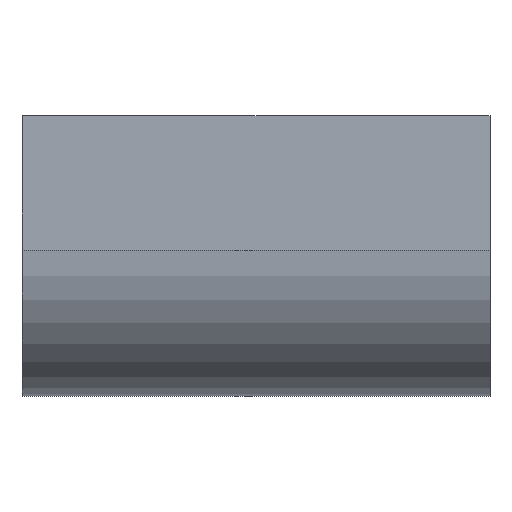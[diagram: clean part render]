
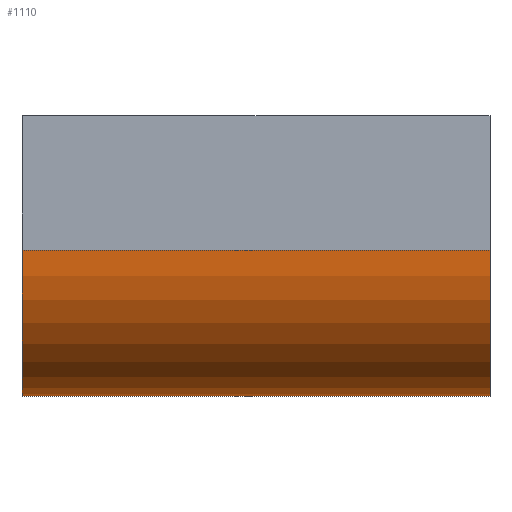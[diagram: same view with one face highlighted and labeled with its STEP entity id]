
A CAD part, front view. The second image highlights one B-rep face of the part: STEP entity #1110.
In plain terms, the highlighted cylindrical face has radius 125 mm (diameter 250 mm), a partial arc.
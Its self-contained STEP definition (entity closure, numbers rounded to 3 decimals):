
#4 = DIRECTION ( 'NONE',  ( 1., 0., 0. ) ) ;
#51 = CARTESIAN_POINT ( 'NONE',  ( 200., 50., -115. ) ) ;
#93 = CARTESIAN_POINT ( 'NONE',  ( 200., -75., -115. ) ) ;
#140 = CARTESIAN_POINT ( 'NONE',  ( -200., 50., -115. ) ) ;
#173 = VECTOR ( 'NONE', #965, 1000. ) ;
#216 = VERTEX_POINT ( 'NONE', #93 ) ;
#260 = CYLINDRICAL_SURFACE ( 'NONE', #953, 125. ) ;
#301 = DIRECTION ( 'NONE',  ( 1., 0., 0. ) ) ;
#318 = EDGE_CURVE ( 'NONE', #216, #1060, #771, .T. ) ;
#356 = EDGE_CURVE ( 'NONE', #1060, #1086, #1395, .T. ) ;
#392 = CIRCLE ( 'NONE', #1123, 125. ) ;
#508 = DIRECTION ( 'NONE',  ( 0., 0., 1. ) ) ;
#620 = DIRECTION ( 'NONE',  ( 0., 0., 1. ) ) ;
#644 = VECTOR ( 'NONE', #1653, 1000. ) ;
#732 = AXIS2_PLACEMENT_3D ( 'NONE', #140, #4, #620 ) ;
#766 = CARTESIAN_POINT ( 'NONE',  ( 200., 50., -115. ) ) ;
#771 = LINE ( 'NONE', #1419, #644 ) ;
#812 = DIRECTION ( 'NONE',  ( 0., 0., 1. ) ) ;
#842 = VERTEX_POINT ( 'NONE', #1176 ) ;
#953 = AXIS2_PLACEMENT_3D ( 'NONE', #766, #1555, #508 ) ;
#965 = DIRECTION ( 'NONE',  ( -1., 0., 0. ) ) ;
#1053 = EDGE_LOOP ( 'NONE', ( #1265, #1665, #1529, #1641 ) ) ;
#1060 = VERTEX_POINT ( 'NONE', #1163 ) ;
#1073 = CARTESIAN_POINT ( 'NONE',  ( 200., 50., -240. ) ) ;
#1086 = VERTEX_POINT ( 'NONE', #1284 ) ;
#1110 = ADVANCED_FACE ( 'NONE', ( #1678 ), #260, .T. ) ;
#1123 = AXIS2_PLACEMENT_3D ( 'NONE', #51, #301, #812 ) ;
#1163 = CARTESIAN_POINT ( 'NONE',  ( -200., -75., -115. ) ) ;
#1176 = CARTESIAN_POINT ( 'NONE',  ( 200., 50., -240. ) ) ;
#1208 = EDGE_CURVE ( 'NONE', #216, #842, #392, .T. ) ;
#1215 = EDGE_CURVE ( 'NONE', #842, #1086, #1337, .T. ) ;
#1265 = ORIENTED_EDGE ( 'NONE', *, *, #356, .T. ) ;
#1284 = CARTESIAN_POINT ( 'NONE',  ( -200., 50., -240. ) ) ;
#1337 = LINE ( 'NONE', #1073, #173 ) ;
#1395 = CIRCLE ( 'NONE', #732, 125. ) ;
#1419 = CARTESIAN_POINT ( 'NONE',  ( 200., -75., -115. ) ) ;
#1529 = ORIENTED_EDGE ( 'NONE', *, *, #1208, .F. ) ;
#1555 = DIRECTION ( 'NONE',  ( -1., 0., 0. ) ) ;
#1641 = ORIENTED_EDGE ( 'NONE', *, *, #318, .T. ) ;
#1653 = DIRECTION ( 'NONE',  ( -1., 0., 0. ) ) ;
#1665 = ORIENTED_EDGE ( 'NONE', *, *, #1215, .F. ) ;
#1678 = FACE_OUTER_BOUND ( 'NONE', #1053, .T. ) ;
